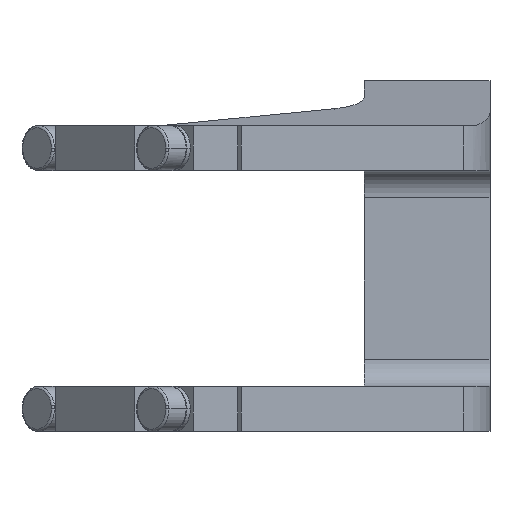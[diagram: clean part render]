
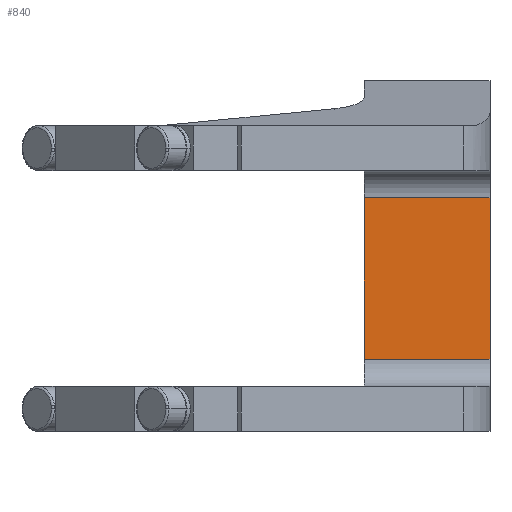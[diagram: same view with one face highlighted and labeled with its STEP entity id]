
A CAD part, front view. The second image highlights one B-rep face of the part: STEP entity #840.
In plain terms, the highlighted planar face has unit normal (0, -1, 0).
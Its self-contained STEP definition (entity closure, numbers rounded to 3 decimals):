
#165=CARTESIAN_POINT('Vertex',(45.,80.,18.)) ;
#168=CARTESIAN_POINT('Line Origine',(27.5,80.,18.)) ;
#172=CARTESIAN_POINT('Vertex',(73.,80.,18.)) ;
#220=CARTESIAN_POINT('Line Origine',(73.,80.,0.)) ;
#224=CARTESIAN_POINT('Vertex',(73.,80.,-18.)) ;
#726=CARTESIAN_POINT('Vertex',(45.,80.,-18.)) ;
#729=CARTESIAN_POINT('Line Origine',(45.,80.,0.)) ;
#824=CARTESIAN_POINT('Axis2P3D Location',(73.,80.,18.)) ;
#829=CARTESIAN_POINT('Line Origine',(59.,80.,-18.)) ;
#169=DIRECTION('Vector Direction',(1.,0.,0.)) ;
#221=DIRECTION('Vector Direction',(0.,0.,-1.)) ;
#730=DIRECTION('Vector Direction',(0.,0.,-1.)) ;
#825=DIRECTION('Axis2P3D Direction',(0.,1.,0.)) ;
#826=DIRECTION('Axis2P3D XDirection',(0.,0.,-1.)) ;
#830=DIRECTION('Vector Direction',(-1.,0.,0.)) ;
#827=AXIS2_PLACEMENT_3D('Plane Axis2P3D',#824,#825,#826) ;
#835=ORIENTED_EDGE('',*,*,#733,.T.) ;
#836=ORIENTED_EDGE('',*,*,#833,.F.) ;
#837=ORIENTED_EDGE('',*,*,#226,.F.) ;
#838=ORIENTED_EDGE('',*,*,#174,.T.) ;
#170=VECTOR('Line Direction',#169,1.) ;
#222=VECTOR('Line Direction',#221,1.) ;
#731=VECTOR('Line Direction',#730,1.) ;
#831=VECTOR('Line Direction',#830,1.) ;
#840=ADVANCED_FACE('Brep With Voids',(#839),#828,.F.) ;
#174=EDGE_CURVE('',#173,#166,#171,.F.) ;
#226=EDGE_CURVE('',#173,#225,#223,.T.) ;
#733=EDGE_CURVE('',#166,#727,#732,.T.) ;
#833=EDGE_CURVE('',#225,#727,#832,.T.) ;
#834=EDGE_LOOP('',(#835,#836,#837,#838)) ;
#839=FACE_OUTER_BOUND('',#834,.T.) ;
#171=LINE('Line',#168,#170) ;
#223=LINE('Line',#220,#222) ;
#732=LINE('Line',#729,#731) ;
#832=LINE('Line',#829,#831) ;
#828=PLANE('Plane',#827) ;
#166=VERTEX_POINT('',#165) ;
#173=VERTEX_POINT('',#172) ;
#225=VERTEX_POINT('',#224) ;
#727=VERTEX_POINT('',#726) ;
